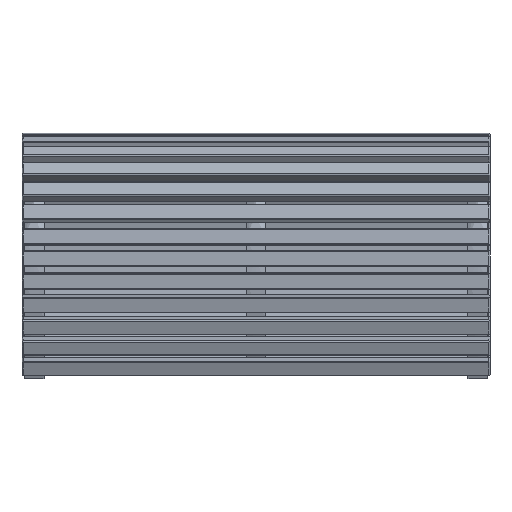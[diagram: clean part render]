
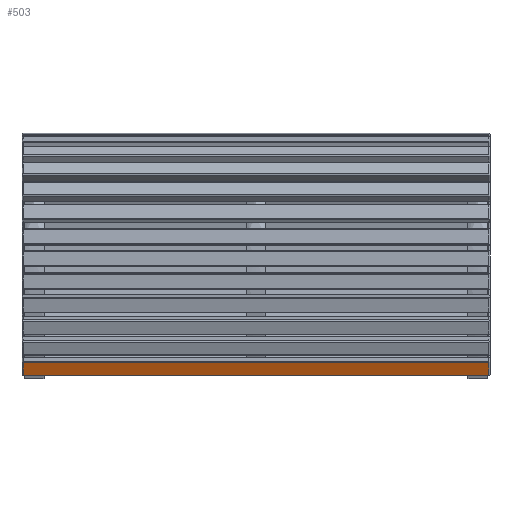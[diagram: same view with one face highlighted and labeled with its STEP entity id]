
A CAD part, front view. The second image highlights one B-rep face of the part: STEP entity #503.
In plain terms, the highlighted planar face has unit normal (0, -0.917, -0.399).
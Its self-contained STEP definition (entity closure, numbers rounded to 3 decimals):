
#503=ADVANCED_FACE('',(#1405),#12953,.T.);
#1405=FACE_OUTER_BOUND('',#2307,.T.);
#2307=EDGE_LOOP('',(#3367,#3368,#3369,#3370));
#3367=ORIENTED_EDGE('',*,*,#7231,.F.);
#3368=ORIENTED_EDGE('',*,*,#7232,.F.);
#3369=ORIENTED_EDGE('',*,*,#7234,.F.);
#3370=ORIENTED_EDGE('',*,*,#7233,.F.);
#7231=EDGE_CURVE('',#11098,#11097,#9733,.T.);
#7232=EDGE_CURVE('',#11096,#11098,#9734,.T.);
#7233=EDGE_CURVE('',#11097,#11095,#9735,.T.);
#7234=EDGE_CURVE('',#11095,#11096,#9736,.T.);
#9733=(
BOUNDED_CURVE()
B_SPLINE_CURVE(1,(#13543,#13544),.UNSPECIFIED.,.F.,.F.)
B_SPLINE_CURVE_WITH_KNOTS((2,2),(-144.,47.333),.UNSPECIFIED.)
CURVE()
GEOMETRIC_REPRESENTATION_ITEM()
RATIONAL_B_SPLINE_CURVE((1.,1.))
REPRESENTATION_ITEM('')
);
#9734=(
BOUNDED_CURVE()
B_SPLINE_CURVE(1,(#13545,#13546),.UNSPECIFIED.,.F.,.F.)
B_SPLINE_CURVE_WITH_KNOTS((2,2),(-9.5,2.5),
 .UNSPECIFIED.)
CURVE()
GEOMETRIC_REPRESENTATION_ITEM()
RATIONAL_B_SPLINE_CURVE((1.,1.))
REPRESENTATION_ITEM('')
);
#9735=(
BOUNDED_CURVE()
B_SPLINE_CURVE(1,(#13547,#13548),.UNSPECIFIED.,.F.,.F.)
B_SPLINE_CURVE_WITH_KNOTS((2,2),(-9.5,2.5),
 .UNSPECIFIED.)
CURVE()
GEOMETRIC_REPRESENTATION_ITEM()
RATIONAL_B_SPLINE_CURVE((1.,1.))
REPRESENTATION_ITEM('')
);
#9736=(
BOUNDED_CURVE()
B_SPLINE_CURVE(1,(#13549,#13550),.UNSPECIFIED.,.F.,.F.)
B_SPLINE_CURVE_WITH_KNOTS((2,2),(-144.,47.333),.UNSPECIFIED.)
CURVE()
GEOMETRIC_REPRESENTATION_ITEM()
RATIONAL_B_SPLINE_CURVE((1.,1.))
REPRESENTATION_ITEM('')
);
#11095=VERTEX_POINT('',#13511);
#11096=VERTEX_POINT('',#13512);
#11097=VERTEX_POINT('',#13513);
#11098=VERTEX_POINT('',#13514);
#12953=PLANE('',#13095);
#13095=AXIS2_PLACEMENT_3D('',#13349,#13221,$);
#13221=DIRECTION('',(0.,-0.917,-0.399));
#13349=CARTESIAN_POINT('',(1196.996,78.051,8.921));
#13511=CARTESIAN_POINT('',(1196.975,78.047,8.93));
#13512=CARTESIAN_POINT('',(3.025,78.047,8.93));
#13513=CARTESIAN_POINT('',(1196.975,63.936,41.331));
#13514=CARTESIAN_POINT('',(3.025,63.936,41.331));
#13543=CARTESIAN_POINT('',(3.025,63.936,41.331));
#13544=CARTESIAN_POINT('',(1196.975,63.936,41.331));
#13545=CARTESIAN_POINT('',(3.025,78.047,8.93));
#13546=CARTESIAN_POINT('',(3.025,63.936,41.331));
#13547=CARTESIAN_POINT('',(1196.975,63.936,41.331));
#13548=CARTESIAN_POINT('',(1196.975,78.047,8.93));
#13549=CARTESIAN_POINT('',(1196.975,78.047,8.93));
#13550=CARTESIAN_POINT('',(3.025,78.047,8.93));
